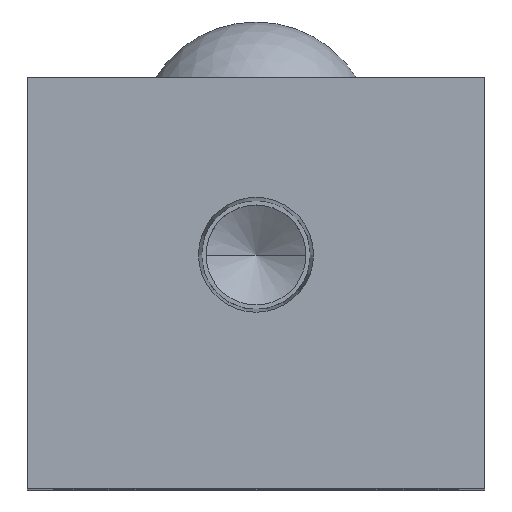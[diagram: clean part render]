
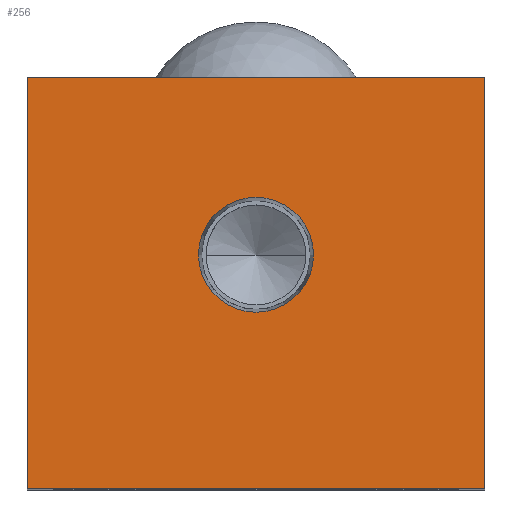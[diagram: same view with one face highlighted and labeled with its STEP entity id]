
A CAD part, top view. The second image highlights one B-rep face of the part: STEP entity #256.
In plain terms, the highlighted planar face has unit normal (0, 0, 1).
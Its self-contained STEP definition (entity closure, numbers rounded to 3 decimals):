
#83 = CARTESIAN_POINT ( 'NONE',  ( -24.5, 44., 0. ) ) ;
#113 = EDGE_CURVE ( 'NONE', #2281, #2284, #370, .T. ) ;
#139 = ORIENTED_EDGE ( 'NONE', *, *, #1948, .T. ) ;
#179 = DIRECTION ( 'NONE',  ( 1., 0., 0. ) ) ;
#195 = CIRCLE ( 'NONE', #1069, 6.154 ) ;
#256 = ADVANCED_FACE ( 'NONE', ( #1077, #1564 ), #325, .F. ) ;
#258 = CARTESIAN_POINT ( 'NONE',  ( 0., 25., 0. ) ) ;
#267 = CARTESIAN_POINT ( 'NONE',  ( -24.5, 0., 0. ) ) ;
#325 = PLANE ( 'NONE',  #1969 ) ;
#370 = LINE ( 'NONE', #267, #2514 ) ;
#416 = AXIS2_PLACEMENT_3D ( 'NONE', #2684, #1438, #179 ) ;
#477 = ORIENTED_EDGE ( 'NONE', *, *, #1536, .F. ) ;
#480 = DIRECTION ( 'NONE',  ( 1., 0., 0. ) ) ;
#498 = LINE ( 'NONE', #1885, #2637 ) ;
#617 = DIRECTION ( 'NONE',  ( 0., 1., 0. ) ) ;
#677 = ORIENTED_EDGE ( 'NONE', *, *, #2624, .T. ) ;
#737 = CARTESIAN_POINT ( 'NONE',  ( -24.5, 0., 0. ) ) ;
#817 = CARTESIAN_POINT ( 'NONE',  ( 24.5, 44., 0. ) ) ;
#926 = EDGE_LOOP ( 'NONE', ( #1619, #477 ) ) ;
#952 = VECTOR ( 'NONE', #617, 1000. ) ;
#1014 = LINE ( 'NONE', #817, #952 ) ;
#1057 = CARTESIAN_POINT ( 'NONE',  ( -6.154, 25., 0. ) ) ;
#1069 = AXIS2_PLACEMENT_3D ( 'NONE', #258, #1721, #480 ) ;
#1077 = FACE_BOUND ( 'NONE', #926, .T. ) ;
#1087 = VERTEX_POINT ( 'NONE', #1692 ) ;
#1273 = VECTOR ( 'NONE', #1354, 1000. ) ;
#1354 = DIRECTION ( 'NONE',  ( 1., 0., 0. ) ) ;
#1365 = CARTESIAN_POINT ( 'NONE',  ( 0., 0., 0. ) ) ;
#1371 = DIRECTION ( 'NONE',  ( -1., 0., 0. ) ) ;
#1438 = DIRECTION ( 'NONE',  ( 0., 0., 1. ) ) ;
#1536 = EDGE_CURVE ( 'NONE', #2650, #2480, #195, .T. ) ;
#1564 = FACE_OUTER_BOUND ( 'NONE', #2016, .T. ) ;
#1568 = CIRCLE ( 'NONE', #416, 6.154 ) ;
#1619 = ORIENTED_EDGE ( 'NONE', *, *, #1944, .F. ) ;
#1692 = CARTESIAN_POINT ( 'NONE',  ( 24.5, 0., 0. ) ) ;
#1721 = DIRECTION ( 'NONE',  ( 0., 0., 1. ) ) ;
#1724 = DIRECTION ( 'NONE',  ( 0., -1., 0. ) ) ;
#1747 = CARTESIAN_POINT ( 'NONE',  ( 24.5, 44., 0. ) ) ;
#1749 = ORIENTED_EDGE ( 'NONE', *, *, #113, .T. ) ;
#1763 = CARTESIAN_POINT ( 'NONE',  ( 24.5, 0., 0. ) ) ;
#1885 = CARTESIAN_POINT ( 'NONE',  ( -24.5, 44., 0. ) ) ;
#1944 = EDGE_CURVE ( 'NONE', #2480, #2650, #1568, .T. ) ;
#1948 = EDGE_CURVE ( 'NONE', #1087, #2265, #1014, .T. ) ;
#1969 = AXIS2_PLACEMENT_3D ( 'NONE', #1365, #2618, #1371 ) ;
#2016 = EDGE_LOOP ( 'NONE', ( #1749, #2269, #139, #677 ) ) ;
#2087 = DIRECTION ( 'NONE',  ( -1., 0., 0. ) ) ;
#2245 = CARTESIAN_POINT ( 'NONE',  ( 6.154, 25., 0. ) ) ;
#2265 = VERTEX_POINT ( 'NONE', #1747 ) ;
#2269 = ORIENTED_EDGE ( 'NONE', *, *, #2282, .T. ) ;
#2281 = VERTEX_POINT ( 'NONE', #83 ) ;
#2282 = EDGE_CURVE ( 'NONE', #2284, #1087, #2512, .T. ) ;
#2284 = VERTEX_POINT ( 'NONE', #737 ) ;
#2480 = VERTEX_POINT ( 'NONE', #2245 ) ;
#2512 = LINE ( 'NONE', #1763, #1273 ) ;
#2514 = VECTOR ( 'NONE', #1724, 1000. ) ;
#2618 = DIRECTION ( 'NONE',  ( 0., 0., -1. ) ) ;
#2624 = EDGE_CURVE ( 'NONE', #2265, #2281, #498, .T. ) ;
#2637 = VECTOR ( 'NONE', #2087, 1000. ) ;
#2650 = VERTEX_POINT ( 'NONE', #1057 ) ;
#2684 = CARTESIAN_POINT ( 'NONE',  ( 0., 25., 0. ) ) ;
